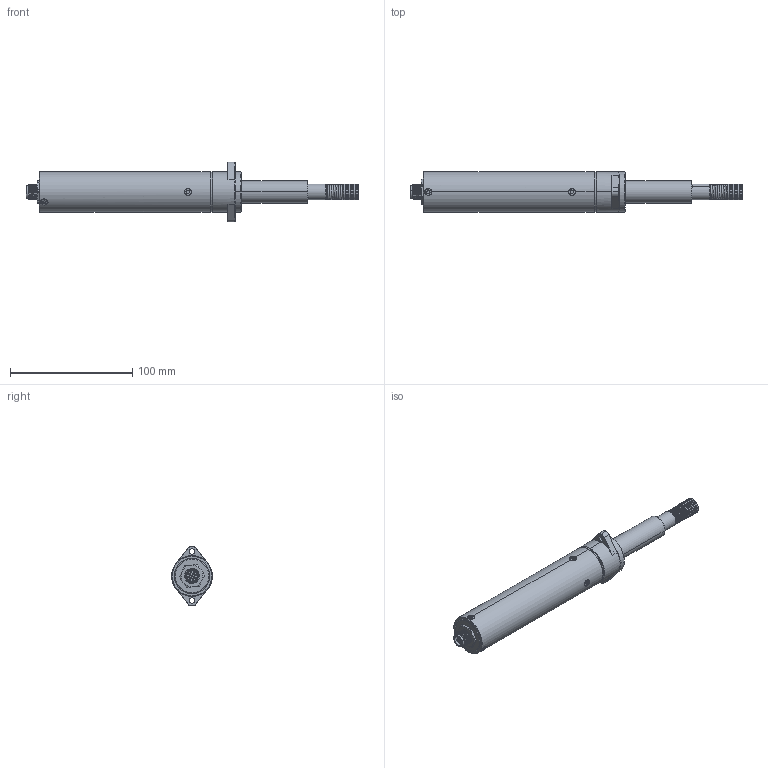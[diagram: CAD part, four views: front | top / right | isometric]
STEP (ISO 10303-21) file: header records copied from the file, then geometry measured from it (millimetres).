
FILE_DESCRIPTION (( 'STEP AP214' ), '1' );
FILE_NAME ('Mito 15CA_FN.STEP', '2018-05-16T08:25:11', ( '' ), ( '' ), 'SwSTEP 2.0', 'SolidWorks 2017', '' );
FILE_SCHEMA (( 'AUTOMOTIVE_DESIGN' ));
Length unit declared in the file: millimetre
Products named in the file (1): Mito 15CA_FN
Bounding box: 271.4 x 33.1 x 49 mm (x, y, z)
Volume: 65314.1 mm3; surface area: 60406.6 mm2
Topology: 27 solids, 27 shells, 813 faces, 1933 edges, 1186 vertices
Faces by surface type: cylinder 377, cone 164, plane 164, torus 62, bspline 41, sphere 5
Entity records: 49238 total; most frequent: CARTESIAN_POINT 21377, DIRECTION 4077, ORIENTED_EDGE 3786, EDGE_CURVE 1893, AXIS2_PLACEMENT_3D 1697, VERTEX_POINT 1177, CIRCLE 924, EDGE_LOOP 922
